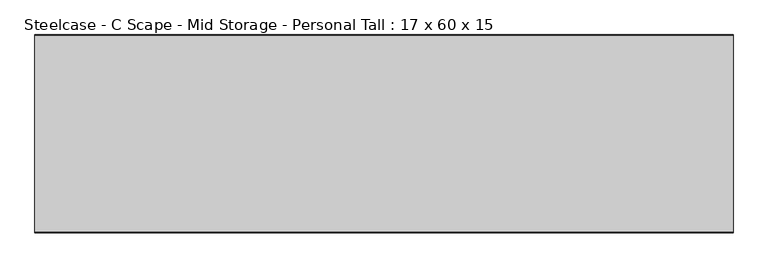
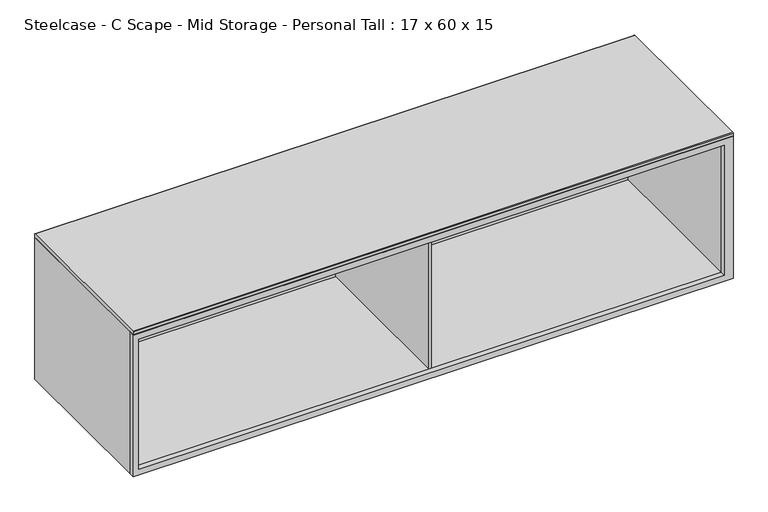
"""IFC4 building model written with IfcOpenShell, lengths in millimetres: furniture geometry, Steelcase - C Scape - Mid Storage - Personal Tall : 17 x 60 x 15."""

from ifc_helpers import new_model, si_unit, point, frame, frame_2d, origin, place, context, project, spatial, polyline, circle_curve, trimmed, segment, composite_curve, outline, extrude, source, transform, mapped, element, save


def steelcase_c_scape_mid_storage_personal_tall_17_x_60_x_15_931f8126(model_context):
    return source(origin(), model_context, "Body", "SweptSolid", [
        extrude(outline(polyline([(1219.2, 1524.0), (1219.2, 0.0), (838.2, 0.0), (838.2, 1524.0), (1219.2, 1524.0)]), holes=[polyline([(1203.9092, 1501.902), (853.4399855, 1501.902), (853.4399855, 13.437709), (1203.9092, 13.437709), (1203.9092, 1501.902)])]), frame((0.0, -216.535, 0.0), z_axis=(0.0, 1.0, 0.0), x_axis=(0.0, 0.0, 1.0)), (0.0, 0.0, 1.0), 14.3764481),
        extrude(outline(polyline([(1501.902, 207.0105809), (1501.902, -187.7821039), (13.437709, -187.7821039), (13.437709, 207.0105809), (1501.902, 207.0105809)])), frame((0.0, 0.0, 1203.9600145), z_axis=(0.0, 0.0, 1.0), x_axis=(1.0, 0.0, 0.0)), (0.0, 0.0, 1.0), 15.2399855),
        extrude(outline(polyline([(1501.902, 207.0105809), (1501.902, -202.1585519), (13.437709, -202.1585519), (13.437709, 207.0105809), (1501.902, 207.0105809)])), frame((0.0, 0.0, 838.2), z_axis=(0.0, 0.0, 1.0), x_axis=(1.0, 0.0, 0.0)), (0.0, 0.0, 1.0), 15.2399855),
        extrude(outline(composite_curve([segment(polyline([(-215.265, 1229.36), (215.265, 1229.36)]), True, "CONTINUOUS"), segment(trimmed(circle_curve(frame_2d((215.265, 1228.09)), 1.27), [point((215.265, 1229.36))], [point((216.535, 1228.09))], False, "CARTESIAN"), True, "CONTINUOUS"), segment(polyline([(216.535, 1228.09), (216.535, 1220.47)]), True, "CONTINUOUS"), segment(trimmed(circle_curve(frame_2d((215.265, 1220.47)), 1.27), [point((216.535, 1220.47))], [point((215.265, 1219.2))], False, "CARTESIAN"), True, "CONTINUOUS"), segment(polyline([(215.265, 1219.2), (-215.265, 1219.2)]), True, "CONTINUOUS"), segment(trimmed(circle_curve(frame_2d((-215.265, 1220.47)), 1.27), [point((-215.265, 1219.2))], [point((-216.535, 1220.47))], False, "CARTESIAN"), True, "CONTINUOUS"), segment(polyline([(-216.535, 1220.47), (-216.535, 1228.09)]), True, "CONTINUOUS"), segment(trimmed(circle_curve(frame_2d((-215.265, 1228.09)), 1.27), [point((-216.535, 1228.09))], [point((-215.265, 1229.36))], False, "CARTESIAN"), True, "CONTINUOUS")], self_intersect=False)), frame((0.0, 0.0, 0.0), z_axis=(1.0, 0.0, 0.0), x_axis=(0.0, 1.0, 0.0)), (0.0, 0.0, 1.0), 1524.0),
        extrude(outline(polyline([(758.825, -202.1585519), (758.825, 207.0105809), (765.175, 207.0105809), (765.175, -202.1585519), (758.825, -202.1585519)])), frame((0.0, 0.0, 853.4399855), z_axis=(0.0, 0.0, 1.0), x_axis=(1.0, 0.0, 0.0)), (0.0, 0.0, 1.0), 365.7600145),
        extrude(outline(polyline([(13.437709, -202.1585519), (0.0, -202.1585519), (0.0, 216.535), (1524.0, 216.535), (1524.0, -202.1585519), (1501.902, -202.1585519), (1501.902, 207.0105809), (793.2892922, 207.0105809), (13.437709, 207.0105809), (13.437709, -202.1585519)])), frame((0.0, 0.0, 838.2), z_axis=(0.0, 0.0, 1.0), x_axis=(1.0, 0.0, 0.0)), (0.0, 0.0, 1.0), 381.0),
    ])


if __name__ == "__main__":
    model = new_model("IFC4")
    model_context = context("Model", 3, world=origin())
    ifc_project = project(units=[si_unit("LENGTHUNIT", "METRE", prefix="MILLI")], contexts=[model_context])
    site = spatial("IfcSite", under=ifc_project)
    building = spatial("IfcBuilding", under=site)
    placement = place(None, origin())
    steelcase_c_scape_mid_storage_personal_tall_17_x_60_x_15_shape = steelcase_c_scape_mid_storage_personal_tall_17_x_60_x_15_931f8126(model_context)
    element("IfcFurniture", 1, ObjectType="Steelcase - C Scape - Mid Storage - Personal Tall : 17 x 60 x 15", at=placement, inside=building, context=model_context, shape_type="MappedRepresentation", body=[
        mapped(steelcase_c_scape_mid_storage_personal_tall_17_x_60_x_15_shape, transform((0.0, 0.0, 0.0), x_axis=(1.0, 0.0, 0.0), y_axis=(0.0, 1.0, 0.0), z_axis=(0.0, 0.0, 1.0))),
    ])
    save(model, "model.ifc")
